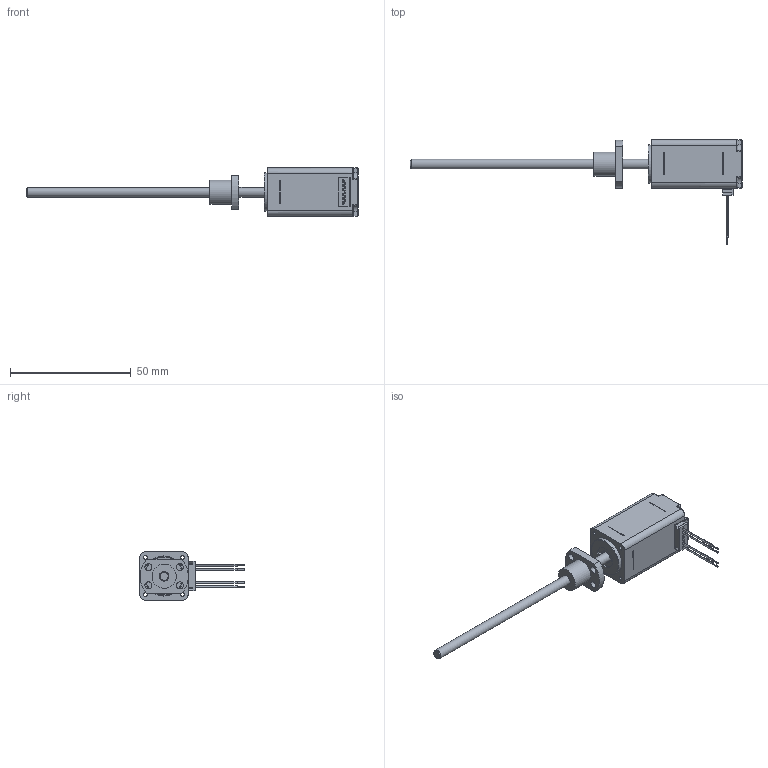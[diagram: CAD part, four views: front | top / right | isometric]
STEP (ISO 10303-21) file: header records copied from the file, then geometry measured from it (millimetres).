
FILE_DESCRIPTION( ('This file contains a STEP AP42 implementation' ,'as created by ZW3D STEP Interface translator.' ,'') ,'2;1' );
FILE_NAME( '21EC4X-2.5-XXX-B_潠趙婦釐.stp' ,'26 1 4.13 511', (''), ('ZWCAD Software Co.'), 'Version 1.0', 'ZW3D to STEP translator', '' );
FILE_SCHEMA(('AUTOMOTIVE_DESIGN { 1 0 10303 214 1 1 1 1 }'));
Length unit declared in the file: millimetre
Products named in the file (1): 0
Bounding box: 137.35 x 43.25 x 20 mm (x, y, z)
Volume: 9067.9 mm3; surface area: 11393 mm2
Topology: 2 solids, 2 shells, 724 faces, 2215 edges, 1424 vertices
Faces by surface type: plane 463, cylinder 209, bspline 43, cone 5, torus 4
Full cylindrical faces by diameter (mm): 0.67 x8, 1.6 x4, 2.2 x4, 2.9 x4, 4 x2, 5.5 x2, 9 x2, 10 x1, 12.24 x1, 12.5 x1, 12.7 x1, 16 x1, 16.6 x1
Entity records: 27201 total; most frequent: CARTESIAN_POINT 6226, ORIENTED_EDGE 4416, DIRECTION 4037, EDGE_CURVE 2208, VECTOR 1499, LINE 1499, VERTEX_POINT 1424, AXIS2_PLACEMENT_3D 1269
